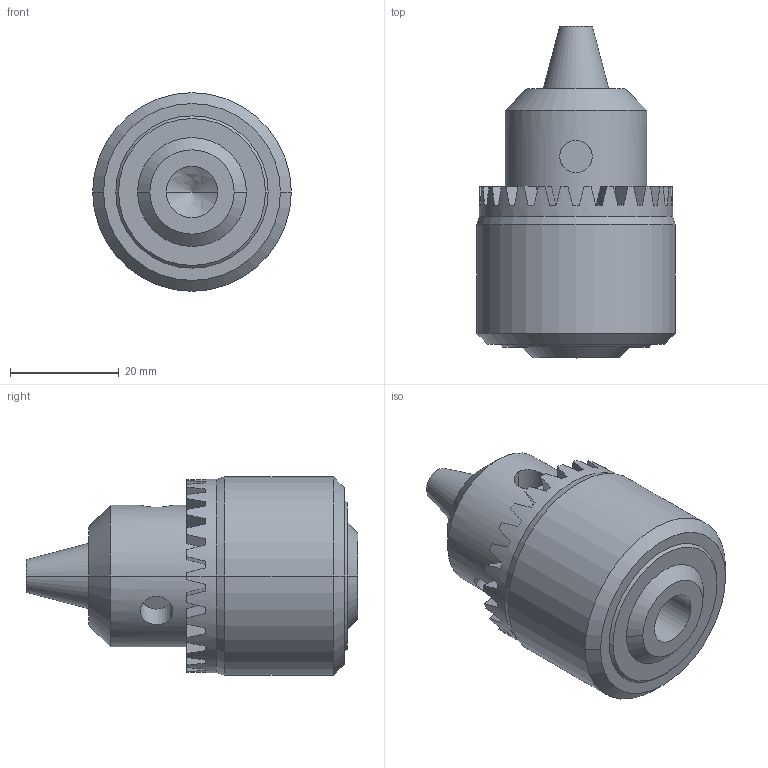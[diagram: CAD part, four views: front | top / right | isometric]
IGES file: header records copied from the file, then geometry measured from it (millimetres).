
Start section:  PTC IGES file: 2050529543.igs
Global section: file name: 2050529543.igs; native system: Pro/ENGINEER by Parametric Technology Corporation; preprocessor: 2010330; author: greextsd; organization: Unknown; date: 20111107.114419; units: millimetre
Bounding box: 36.5 x 61 x 36.5 mm (x, y, z)
Volume: 37357.1 mm3; surface area: 8405.8 mm2
Topology: 1 solids, 1 shells, 140 faces, 386 edges, 253 vertices
Faces by surface type: bspline 112, revolution 28
